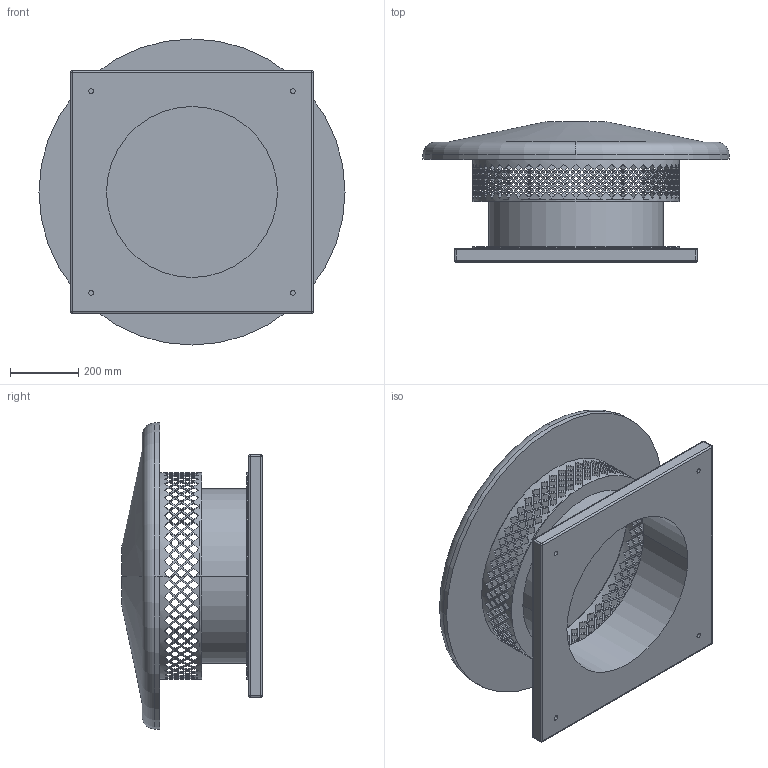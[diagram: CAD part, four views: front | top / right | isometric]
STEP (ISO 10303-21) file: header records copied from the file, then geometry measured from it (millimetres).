
FILE_DESCRIPTION(('STEP AP214'),'1');
FILE_NAME('fan_5113435100.stp','2017-03-31T12:42:09',('TraceParts'),('TraceParts S.A.'),'Spatial InterOp 3D',' ',' ');
FILE_SCHEMA(('automotive_design'));
Length unit declared in the file: millimetre
Products named in the file (1): fan_5113435100
Bounding box: 895 x 410 x 895 mm (x, y, z)
Volume: 56818474.9 mm3; surface area: 3045692.6 mm2
Topology: 1 solids, 1 shells, 1119 faces, 3376 edges, 2238 vertices
Faces by surface type: plane 1073, cylinder 32, sphere 8, torus 4, cone 2
Entity records: 49272 total; most frequent: DIRECTION 7850, ORIENTED_EDGE 6736, CARTESIAN_POINT 6726, EDGE_CURVE 3368, AXIS2_PLACEMENT_3D 3362, VERTEX_POINT 2238, ELLIPSE 2160, EDGE_LOOP 1644
